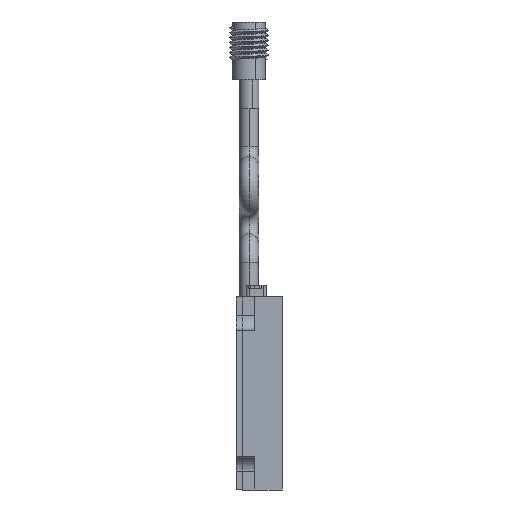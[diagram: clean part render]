
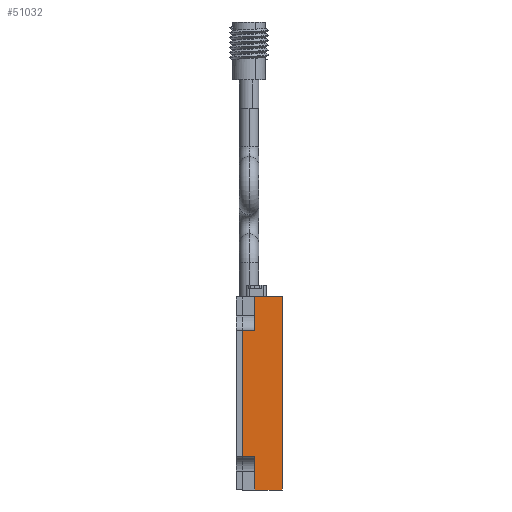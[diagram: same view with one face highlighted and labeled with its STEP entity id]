
A CAD part, left-side view. The second image highlights one B-rep face of the part: STEP entity #51032.
In plain terms, the highlighted planar face has unit normal (-1, 0, 0).
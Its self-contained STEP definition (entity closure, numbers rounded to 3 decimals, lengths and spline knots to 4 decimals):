
#1238 = VERTEX_POINT ( 'NONE', #6030 ) ;
#1263 = VERTEX_POINT ( 'NONE', #6059 ) ;
#1309 = VERTEX_POINT ( 'NONE', #6112 ) ;
#1321 = VERTEX_POINT ( 'NONE', #6125 ) ;
#2902 = EDGE_CURVE ( 'NONE', #24658, #25182, #12586, .T. ) ;
#2904 = EDGE_CURVE ( 'NONE', #24658, #1321, #12591, .T. ) ;
#2912 = EDGE_CURVE ( 'NONE', #1321, #1238, #12599, .T. ) ;
#2928 = EDGE_CURVE ( 'NONE', #24686, #1309, #12623, .T. ) ;
#2930 = EDGE_CURVE ( 'NONE', #1309, #1238, #12624, .T. ) ;
#2974 = EDGE_CURVE ( 'NONE', #24686, #1263, #12691, .T. ) ;
#2976 = EDGE_CURVE ( 'NONE', #1263, #25204, #12692, .T. ) ;
#3167 = EDGE_CURVE ( 'NONE', #25204, #25182, #13091, .T. ) ;
#6030 = CARTESIAN_POINT ( 'NONE',  ( -2.0928, 0.0505, 0.7096 ) ) ;
#6059 = CARTESIAN_POINT ( 'NONE',  ( -2.0928, 0.2305, -0.3239 ) ) ;
#6112 = CARTESIAN_POINT ( 'NONE',  ( -2.0928, 0.0505, -0.5404 ) ) ;
#6125 = CARTESIAN_POINT ( 'NONE',  ( -2.0928, 0.2305, 0.7096 ) ) ;
#10170 = ORIENTED_EDGE ( 'NONE', *, *, #2902, .T. ) ;
#10317 = ORIENTED_EDGE ( 'NONE', *, *, #2904, .F. ) ;
#10335 = ORIENTED_EDGE ( 'NONE', *, *, #2912, .F. ) ;
#10417 = ORIENTED_EDGE ( 'NONE', *, *, #2976, .F. ) ;
#10451 = ORIENTED_EDGE ( 'NONE', *, *, #3167, .F. ) ;
#10601 = ORIENTED_EDGE ( 'NONE', *, *, #2928, .T. ) ;
#10658 = ORIENTED_EDGE ( 'NONE', *, *, #2930, .T. ) ;
#10685 = ORIENTED_EDGE ( 'NONE', *, *, #2974, .F. ) ;
#12586 = LINE ( 'NONE', #52954, #12590 ) ;
#12590 = VECTOR ( 'NONE', #52948, 39.3701 ) ;
#12591 = LINE ( 'NONE', #52961, #12593 ) ;
#12593 = VECTOR ( 'NONE', #52950, 39.3701 ) ;
#12599 = LINE ( 'NONE', #53031, #12604 ) ;
#12604 = VECTOR ( 'NONE', #53034, 39.3701 ) ;
#12623 = LINE ( 'NONE', #53127, #12626 ) ;
#12624 = LINE ( 'NONE', #53125, #12630 ) ;
#12626 = VECTOR ( 'NONE', #53115, 39.3701 ) ;
#12630 = VECTOR ( 'NONE', #53139, 39.3701 ) ;
#12691 = LINE ( 'NONE', #53389, #12694 ) ;
#12692 = LINE ( 'NONE', #53387, #12698 ) ;
#12694 = VECTOR ( 'NONE', #53377, 39.3701 ) ;
#12698 = VECTOR ( 'NONE', #53402, 39.3701 ) ;
#13091 = LINE ( 'NONE', #37077, #13095 ) ;
#13095 = VECTOR ( 'NONE', #37064, 39.3701 ) ;
#14999 = CARTESIAN_POINT ( 'NONE',  ( -2.0928, 0.3105, 0.4931 ) ) ;
#15021 = CARTESIAN_POINT ( 'NONE',  ( -2.0928, 0.3105, -0.3239 ) ) ;
#24658 = VERTEX_POINT ( 'NONE', #49002 ) ;
#24686 = VERTEX_POINT ( 'NONE', #49030 ) ;
#25182 = VERTEX_POINT ( 'NONE', #14999 ) ;
#25204 = VERTEX_POINT ( 'NONE', #15021 ) ;
#29488 = AXIS2_PLACEMENT_3D ( 'NONE', #53555, #53560, #53561 ) ;
#37064 = DIRECTION ( 'NONE',  ( 0., 0., 1. ) ) ;
#37077 = CARTESIAN_POINT ( 'NONE',  ( -2.0928, 0.3105, -0.5404 ) ) ;
#43563 = FACE_OUTER_BOUND ( 'NONE', #49742, .T. ) ;
#49002 = CARTESIAN_POINT ( 'NONE',  ( -2.0928, 0.2305, 0.4931 ) ) ;
#49030 = CARTESIAN_POINT ( 'NONE',  ( -2.0928, 0.2305, -0.5404 ) ) ;
#49742 = EDGE_LOOP ( 'NONE', ( #10451, #10417, #10685, #10601, #10658, #10335, #10317, #10170 ) ) ;
#51032 = ADVANCED_FACE ( 'NONE', ( #43563 ), #53557, .F. ) ;
#52948 = DIRECTION ( 'NONE',  ( 0., 1., 0. ) ) ;
#52950 = DIRECTION ( 'NONE',  ( 0., 0., 1. ) ) ;
#52954 = CARTESIAN_POINT ( 'NONE',  ( -2.0928, 0.2305, 0.4931 ) ) ;
#52961 = CARTESIAN_POINT ( 'NONE',  ( -2.0928, 0.2305, 0.4931 ) ) ;
#53031 = CARTESIAN_POINT ( 'NONE',  ( -2.0928, 0.3105, 0.7096 ) ) ;
#53034 = DIRECTION ( 'NONE',  ( 0., -1., 0. ) ) ;
#53115 = DIRECTION ( 'NONE',  ( 0., -1., 0. ) ) ;
#53125 = CARTESIAN_POINT ( 'NONE',  ( -2.0928, 0.0505, -0.5404 ) ) ;
#53127 = CARTESIAN_POINT ( 'NONE',  ( -2.0928, 0.3105, -0.5404 ) ) ;
#53139 = DIRECTION ( 'NONE',  ( 0., 0., 1. ) ) ;
#53377 = DIRECTION ( 'NONE',  ( 0., 0., 1. ) ) ;
#53387 = CARTESIAN_POINT ( 'NONE',  ( -2.0928, 0.2305, -0.3239 ) ) ;
#53389 = CARTESIAN_POINT ( 'NONE',  ( -2.0928, 0.2305, -0.3239 ) ) ;
#53402 = DIRECTION ( 'NONE',  ( 0., 1., 0. ) ) ;
#53555 = CARTESIAN_POINT ( 'NONE',  ( -2.0928, 0.3105, -0.5404 ) ) ;
#53557 = PLANE ( 'NONE',  #29488 ) ;
#53560 = DIRECTION ( 'NONE',  ( 1., 0., 0. ) ) ;
#53561 = DIRECTION ( 'NONE',  ( 0., 0., -1. ) ) ;
